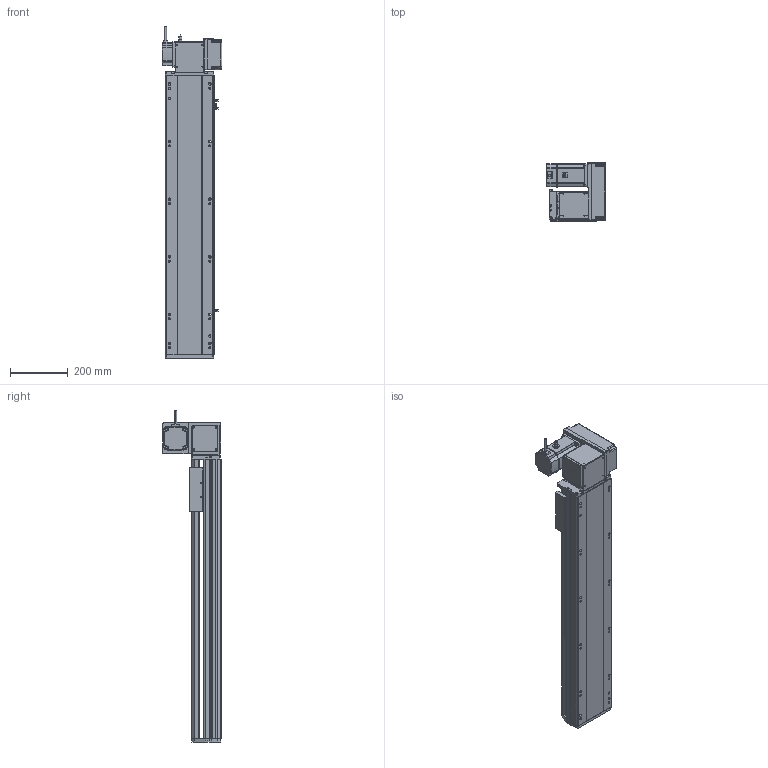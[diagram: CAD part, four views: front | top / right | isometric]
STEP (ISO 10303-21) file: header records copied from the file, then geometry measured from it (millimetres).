
FILE_DESCRIPTION (( 'STEP AP214' ), '1' );
FILE_NAME ('RTB17S-XX-700-RW-M75-C4.STEP', '2025-12-12T02:34:22', ( '' ), ( '' ), 'SwSTEP 2.0', 'SolidWorks 2018', '' );
FILE_SCHEMA (( 'AUTOMOTIVE_DESIGN' ));
Length unit declared in the file: millimetre
Products named in the file (15): RTB22S-GY-018P^RTB17S-RW-々湍釱蚾饜-750W_RTB17S-XX-XX-RW-M75-C4; RTB17S-RW-々湍釱蚾饜-750W^RTB17S-XX-XX-RW-M75-C4; RTB17S-賑釱^RTB17S-XX-XX-RW-M75-C4; RTB17S-XX-700-RW-M75-C4; RTB22S-GY-017P^RTB17S-RW-々湍釱蚾饜-750W_RTB17S-XX-XX-RW-M75-C4; RTB22S-GY-008-M75--萇儂啣^RTB17S-RW-々湍釱蚾饜-750W_RTB17S-XX-XX-RW-M75-C4; RTB17S-L-004-賑釱^RTB17S-賑釱_RTB17S-XX-XX-RW-M75-C4; RTH13-BL-012覜茼え俋离^RTB17S-賑釱_RTB17S-XX-XX-RW-M75-C4; RMP17S-L-014-T20-P75--々湍釱^RTB17S-RW-々湍釱蚾饜-750W_RTB17S-XX-XX-RW-M75-C4; RTB22S-GY-005P^RTB17S-RW-々湍釱蚾饜-750W_RTB17S-XX-XX-RW-M75-C4; RTB17S-L-007奻裔^RTB17S-XX-XX-RW-M75-C4; 750W萇儂^RTB17S-XX-XX-RW-M75-C4; RTB17S-L-001-耜醱啣^RTB17S-XX-XX-RW-M75-C4; EE672^RTB17S-XX-XX-RW-M75-C4; RTB17-R-011菁釱^RTB17S-XX-XX-RW-M75-C4
Assembly tree (17 placements, depth 3):
  RTB17S-XX-700-RW-M75-C4
    RTB17-R-011菁釱^RTB17S-XX-XX-RW-M75-C4
    EE672^RTB17S-XX-XX-RW-M75-C4  x3
    RTB17S-L-001-耜醱啣^RTB17S-XX-XX-RW-M75-C4
    RTB17S-賑釱^RTB17S-XX-XX-RW-M75-C4
      RTB17S-L-004-賑釱^RTB17S-賑釱_RTB17S-XX-XX-RW-M75-C4
      RTH13-BL-012覜茼え俋离^RTB17S-賑釱_RTB17S-XX-XX-RW-M75-C4
    RTB17S-L-007奻裔^RTB17S-XX-XX-RW-M75-C4
    750W萇儂^RTB17S-XX-XX-RW-M75-C4
    RTB17S-RW-々湍釱蚾饜-750W^RTB17S-XX-XX-RW-M75-C4
      RMP17S-L-014-T20-P75--々湍釱^RTB17S-RW-々湍釱蚾饜-750W_RTB17S-XX-XX-RW-M75-C4
      RTB22S-GY-005P^RTB17S-RW-々湍釱蚾饜-750W_RTB17S-XX-XX-RW-M75-C4
      RTB22S-GY-017P^RTB17S-RW-々湍釱蚾饜-750W_RTB17S-XX-XX-RW-M75-C4  x2
      RTB22S-GY-008-M75--萇儂啣^RTB17S-RW-々湍釱蚾饜-750W_RTB17S-XX-XX-RW-M75-C4
      RTB22S-GY-018P^RTB17S-RW-々湍釱蚾饜-750W_RTB17S-XX-XX-RW-M75-C4
Bounding box: 207.4 x 201.5 x 1152.2 mm (x, y, z)
Volume: 10323170.3 mm3; surface area: 1703319.6 mm2
Topology: 17 solids, 17 shells, 2073 faces, 5728 edges, 3698 vertices
Faces by surface type: plane 968, cylinder 689, bspline 294, cone 110, sphere 8, torus 4
Entity records: 57334 total; most frequent: CARTESIAN_POINT 16792, ORIENTED_EDGE 8300, DIRECTION 7772, EDGE_CURVE 4150, AXIS2_PLACEMENT_3D 2718, VERTEX_POINT 2702, VECTOR 2336, LINE 2336
